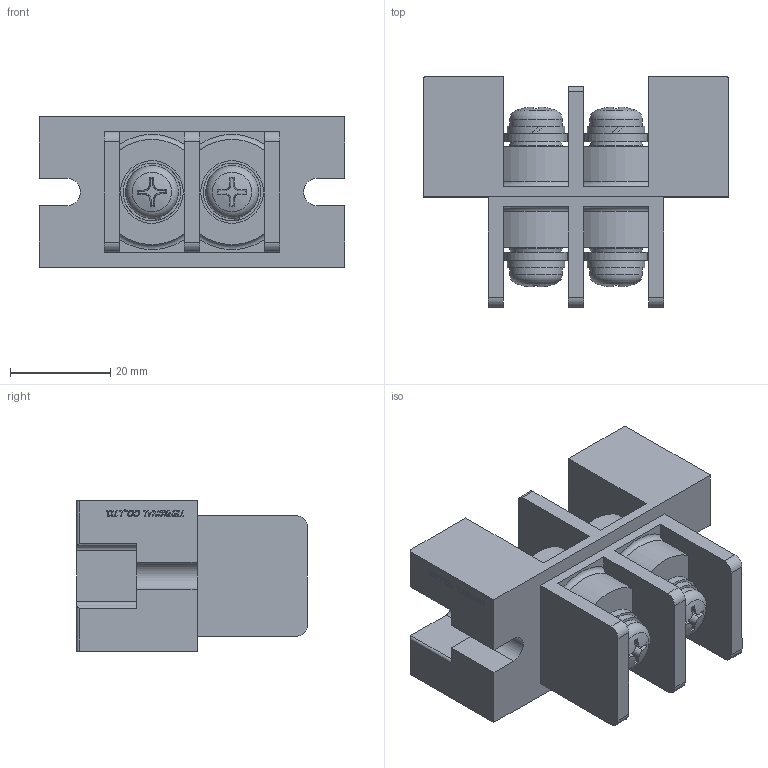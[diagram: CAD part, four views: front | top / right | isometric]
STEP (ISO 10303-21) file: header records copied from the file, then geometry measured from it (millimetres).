
FILE_DESCRIPTION(/* description */ ('Alibre Inc.'),/* implementation_level */ '2;1');
FILE_NAME(/* name */ 'export0',/* time_stamp */ '2016-01-14T19:18:16+09:00',/* author */ (''),/* organization */ (''),/* preprocessor_version */ 'ST-DEVELOPER v14',/* originating_system */ 'Alibre',/* authorisation */ '');
FILE_SCHEMA (('CONFIG_CONTROL_DESIGN'));
Length unit declared in the file: centimetre
Products named in the file (1): ID_1
Bounding box: 61 x 46 x 30 mm (x, y, z)
Volume: 38661.4 mm3; surface area: 15806.7 mm2
Topology: 1 solids, 7 shells, 444 faces, 1154 edges, 763 vertices
Faces by surface type: plane 278, cylinder 70, bspline 52, cone 28, torus 12, sphere 4
Full cylindrical faces by diameter (mm): 4.55 x2, 6 x6, 10.5 x8, 10.75 x4, 12.5 x4
Entity records: 13454 total; most frequent: CARTESIAN_POINT 3380, ORIENTED_EDGE 2202, DIRECTION 1627, EDGE_CURVE 1101, VERTEX_POINT 750, VECTOR 697, LINE 697, AXIS2_PLACEMENT_3D 601
